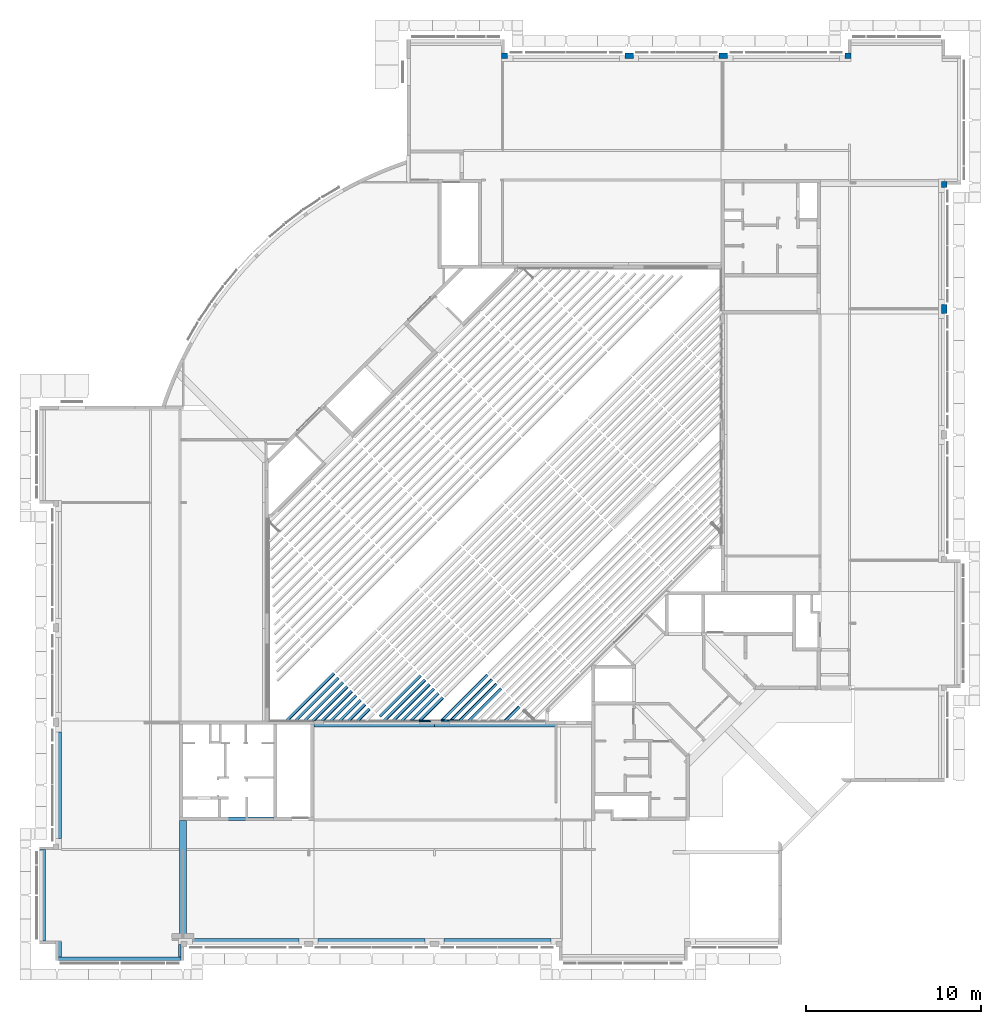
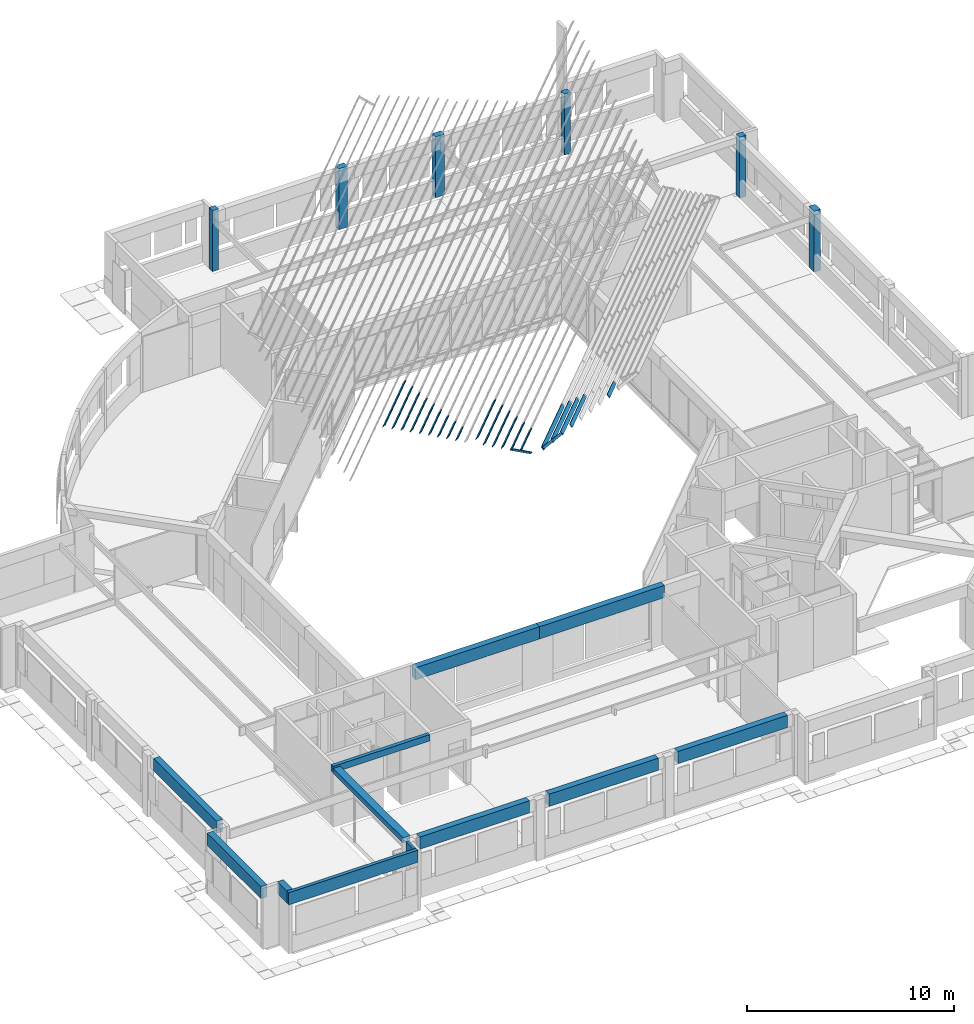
# One storey, part 2 of 37: 34 beams, 6 columns.
"""IFC4X3_ADD2 building model written with IfcOpenShell, lengths in millimetres."""

from ifc_helpers import new_model, si_unit, direction, frame, frame_2d, origin_with_axes, origin_2d_with_axis, place, context, subcontext, project, spatial, rectangle, extrude, source, transform, mapped, material, type_object, type_shapes, element, save


model = new_model("IFC4X3_ADD2")

# Units and contexts
model_context = context("Model", 3, precision=1e-05, world=origin_with_axes(), true_north=direction((0.0, 1.0)))
body_context = subcontext(model_context, "Body", "Model", "MODEL_VIEW")
ifc_project = project(units=[si_unit("LENGTHUNIT", "METRE", prefix="MILLI"), si_unit("AREAUNIT", "SQUARE_METRE"), si_unit("VOLUMEUNIT", "CUBIC_METRE"), si_unit("PLANEANGLEUNIT", "RADIAN"), si_unit("TIMEUNIT", "SECOND"), si_unit("MASSUNIT", "GRAM")], contexts=[model_context])

# Site, building, storey
site_placement = place(None, origin_with_axes())
site = spatial("IfcSite", under=ifc_project, at=site_placement, Name="Site", CompositionType="ELEMENT")
building_placement = place(site_placement, origin_with_axes())
building = spatial("IfcBuilding", under=site, at=building_placement, Name="IFC Building Story")
storey_placement = place(building_placement, frame((0.0, 0.0, 3600.0), z_axis=(0.0, 0.0, 1.0), x_axis=(1.0, 0.0, 0.0)))
storey = spatial("IfcBuildingStorey", under=building, at=storey_placement, Name="010", Elevation=3600.0)

# Columns
ifc_material_1 = material(Name="BB_Beton_Bestaand")
column_type_1 = type_object("IfcColumnType", Name="BB_XX_Kolom_ rechthoekig_ center-center_GTL_340 mm x 340 mm25", PredefinedType="NOTDEFINED")
shared_shape_1 = source(origin_with_axes(), body_context, "Body", "SweptSolid", [
    extrude(rectangle(XDim=340.0, YDim=340.000000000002, at=origin_2d_with_axis()), frame((0.0, 0.0, 3400.0), z_axis=(0.0, 0.0, 1.0), x_axis=(1.0, 0.0, 0.0)), (0.0, 0.0, 1.0), 3600.0),
])
type_shapes(column_type_1, [shared_shape_1])
for number, where, z_axis, x_axis in (
    (1, (75.0, 43405.0, -3600.0), (0.0, 0.0, 1.0), (1.0, 0.0, 0.0)),
    (2, (-5440.0, 50775.0, -3600.0), (0.0, 0.0, 1.0), (1.0, 0.0, 0.0)),
):
    element("IfcColumn", number, at=place(storey_placement, frame(where, z_axis=z_axis, x_axis=x_axis)), inside=storey, type_object=column_type_1, material=ifc_material_1, Name="BB_XX_Kolom, rechthoekig, center-center_GTL:340 mm x 340 mm", ObjectType="340 mm x 340 mm", PredefinedType="COLUMN", context=body_context, shape_type="MappedRepresentation", body=[
        mapped(shared_shape_1, transform((0.0, 0.0, 0.0))),
    ])
column_type_2 = type_object("IfcColumnType", Name="BB_XX_Kolom_ rechthoekig_ center-center_GTL_490 mm x 340 mm17", PredefinedType="NOTDEFINED")
shared_shape_2 = source(origin_with_axes(), body_context, "Body", "SweptSolid", [
    extrude(rectangle(XDim=490.0, YDim=340.0, at=origin_2d_with_axis()), frame((0.0, 0.0, 3400.0), z_axis=(0.0, 0.0, 1.0), x_axis=(1.0, 0.0, 0.0)), (0.0, 0.0, 1.0), 3600.0),
])
type_shapes(column_type_2, [shared_shape_2])
for number, where, z_axis, x_axis in (
    (3, (75.0, 36280.0, -3600.0), (0.0, 0.0, 1.0), (0.0, 1.0, 0.0)),
    (4, (-12565.0, 50775.0, -3600.0), (0.0, 0.0, 1.0), (1.0, 0.0, 0.0)),
    (5, (-17965.0, 50775.0, -3600.0), (0.0, 0.0, 1.0), (1.0, 0.0, 0.0)),
):
    element("IfcColumn", number, at=place(storey_placement, frame(where, z_axis=z_axis, x_axis=x_axis)), inside=storey, type_object=column_type_2, material=ifc_material_1, Name="BB_XX_Kolom, rechthoekig, center-center_GTL:490 mm x 340 mm", ObjectType="490 mm x 340 mm", PredefinedType="COLUMN", context=body_context, shape_type="MappedRepresentation", body=[
        mapped(shared_shape_2, transform((0.0, 0.0, 0.0))),
    ])
column_type_3 = type_object("IfcColumnType", Name="BB_XX_Kolom_ rechthoekig_ center-center_GTL_340 mm x 340 mm31", PredefinedType="NOTDEFINED")
shared_shape_3 = source(origin_with_axes(), body_context, "Body", "SweptSolid", [
    extrude(rectangle(XDim=340.0, YDim=340.0000000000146, at=origin_2d_with_axis()), frame((-25090.0, 50775.0, 3400.0), z_axis=(0.0, 0.0, 1.0), x_axis=(1.0, 0.0, 0.0)), (0.0, 0.0, 1.0), 3600.0),
])
type_shapes(column_type_3, [shared_shape_3])
column_placement = place(storey_placement, frame((0.0, 0.0, -3600.0), z_axis=(0.0, 0.0, 1.0), x_axis=(1.0, 0.0, 0.0)))
element("IfcColumn", 6, at=column_placement, inside=storey, type_object=column_type_3, material=ifc_material_1, Name="BB_XX_Kolom, rechthoekig, center-center_GTL:340 mm x 340 mm", ObjectType="340 mm x 340 mm", PredefinedType="COLUMN", context=body_context, shape_type="MappedRepresentation", body=[
    mapped(shared_shape_3, transform((0.0, 0.0, 0.0))),
])

# Beams
beam_type_1 = type_object("IfcBeamType", Name="BB_XX_Betonbalk_ rechthoekig_ center-center_SFB_340 x 720 mm55", PredefinedType="NOTDEFINED")
shared_shape_4 = source(origin_with_axes(), body_context, "Body", "SweptSolid", [
    extrude(rectangle(XDim=6900.00000000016, YDim=340.0, at=origin_2d_with_axis()), frame((-5.002220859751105e-12, 0.0, -360.0), z_axis=(0.0, 0.0, 1.0), x_axis=(1.0, 0.0, 0.0)), (0.0, 0.0, 1.0), 720.0),
])
type_shapes(beam_type_1, [shared_shape_4])
beam_1_placement = place(storey_placement, frame((-32550.0, 12525.004065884, 3040.0), z_axis=(0.0, 0.0, 1.0), x_axis=(1.0, 0.0, 0.0)))
element("IfcBeam", 7, at=beam_1_placement, inside=storey, type_object=beam_type_1, material=ifc_material_1, Name="BB_XX_Betonbalk, rechthoekig, center-center_SFB:340 x 720 mm", ObjectType="340 x 720 mm", PredefinedType="BEAM", context=body_context, shape_type="MappedRepresentation", body=[
    mapped(shared_shape_4, transform((0.0, 0.0, 0.0))),
])
beam_type_2 = type_object("IfcBeamType", Name="BB_XX_Betonbalk_ rechthoekig_ center-center_SFB_400 x 300 mm", PredefinedType="NOTDEFINED")
shared_shape_5 = source(origin_with_axes(), body_context, "Body", "SweptSolid", [
    extrude(rectangle(XDim=6755.00000000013, YDim=400.0, at=origin_2d_with_axis()), frame((5.002220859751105e-12, 0.0, -150.0), z_axis=(0.0, 0.0, 1.0), x_axis=(1.0, 0.0, 0.0)), (0.0, 0.0, 1.0), 300.0),
])
type_shapes(beam_type_2, [shared_shape_5])
beam_2_placement = place(storey_placement, frame((-43500.0, 3622.50000000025, 3250.0), z_axis=(0.0, 0.0, 1.0), x_axis=(0.0, 1.0, 0.0)))
element("IfcBeam", 8, at=beam_2_placement, inside=storey, type_object=beam_type_2, material=ifc_material_1, Name="BB_XX_Betonbalk, rechthoekig, center-center_SFB:400 x 300 mm", ObjectType="300 mm x 400 mm", PredefinedType="BEAM", context=body_context, shape_type="MappedRepresentation", body=[
    mapped(shared_shape_5, transform((0.0, 0.0, 0.0))),
])
beam_type_3 = type_object("IfcBeamType", Name="BB_XX_Betonbalk_ rechthoekig_ center-center_SFB_340 x 720 mm73", PredefinedType="NOTDEFINED")
shared_shape_6 = source(origin_with_axes(), body_context, "Body", "SweptSolid", [
    extrude(rectangle(XDim=6109.99999999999, YDim=340.0, at=origin_2d_with_axis()), frame((-5.002220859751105e-12, 0.0, -360.0), z_axis=(0.0, 0.0, 1.0), x_axis=(1.0, 0.0, 0.0)), (0.0, 0.0, 1.0), 720.0),
])
type_shapes(beam_type_3, [shared_shape_6])
for number, where, z_axis, x_axis in (
    (9, (-39900.0, 75.0, 3040.0), (0.0, 0.0, 1.0), (-1.0, 0.0, 0.0)),
    (10, (-32700.0, 75.0, 3040.0), (0.0, 0.0, 1.0), (-1.0, 0.0, 0.0)),
    (11, (-25500.0, 75.0, 3040.0), (0.0, 0.0, 1.0), (-1.0, 0.0, 0.0)),
):
    element("IfcBeam", number, at=place(storey_placement, frame(where, z_axis=z_axis, x_axis=x_axis)), inside=storey, type_object=beam_type_3, material=ifc_material_1, Name="BB_XX_Betonbalk, rechthoekig, center-center_SFB:340 x 720 mm", ObjectType="340 x 720 mm", PredefinedType="BEAM", context=body_context, shape_type="MappedRepresentation", body=[
        mapped(shared_shape_6, transform((0.0, 0.0, 0.0))),
    ])
beam_type_4 = type_object("IfcBeamType", Name="BB_XX_Betonbalk_ rechthoekig_ center-center_SFB_190 x 720 mm9", PredefinedType="NOTDEFINED")
shared_shape_7 = source(origin_with_axes(), body_context, "Body", "SweptSolid", [
    extrude(rectangle(XDim=7200.00000000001, YDim=190.0, at=origin_2d_with_axis()), frame((-5.002220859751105e-12, 0.0, -360.0), z_axis=(0.0, 0.0, 1.0), x_axis=(1.0, 0.0, 0.0)), (0.0, 0.0, 1.0), 720.0),
])
type_shapes(beam_type_4, [shared_shape_7])
beam_3_placement = place(storey_placement, frame((-47195.0, -900.0, 3040.0), z_axis=(0.0, 0.0, 1.0), x_axis=(-1.0, 0.0, 0.0)))
element("IfcBeam", 12, at=beam_3_placement, inside=storey, type_object=beam_type_4, material=ifc_material_1, Name="BB_XX_Betonbalk, rechthoekig, center-center_SFB:190 x 720 mm", ObjectType="190 x 720 mm", PredefinedType="BEAM", context=body_context, shape_type="MappedRepresentation", body=[
    mapped(shared_shape_7, transform((0.0, 0.0, 0.0))),
])
beam_type_5 = type_object("IfcBeamType", Name="BB_XX_Betonbalk_ rechthoekig_ center-center_SFB_340 x 720 mm99", PredefinedType="NOTDEFINED")
shared_shape_8 = source(origin_with_axes(), body_context, "Body", "SweptSolid", [
    extrude(rectangle(XDim=5209.99999999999, YDim=340.0, at=origin_2d_with_axis()), frame((-5.002220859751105e-12, 0.0, -360.0), z_axis=(0.0, 0.0, 1.0), x_axis=(1.0, 0.0, 0.0)), (0.0, 0.0, 1.0), 720.0),
])
type_shapes(beam_type_5, [shared_shape_8])
beam_4_placement = place(storey_placement, frame((-51525.0, 2730.0, 3040.0), z_axis=(0.0, 0.0, 1.0), x_axis=(0.0, 1.0, 0.0)))
element("IfcBeam", 13, at=beam_4_placement, inside=storey, type_object=beam_type_5, material=ifc_material_1, Name="BB_XX_Betonbalk, rechthoekig, center-center_SFB:340 x 720 mm", ObjectType="340 x 720 mm", PredefinedType="BEAM", context=body_context, shape_type="MappedRepresentation", body=[
    mapped(shared_shape_8, transform((0.0, 0.0, 0.0))),
])
beam_type_6 = type_object("IfcBeamType", Name="BB_XX_Betonbalk_ rechthoekig_ center-center_SFB_340 x 720 mm101", PredefinedType="NOTDEFINED")
shared_shape_9 = source(origin_with_axes(), body_context, "Body", "SweptSolid", [
    extrude(rectangle(XDim=6109.99999999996, YDim=340.0, at=origin_2d_with_axis()), frame((-5.002220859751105e-12, 0.0, -360.0), z_axis=(0.0, 0.0, 1.0), x_axis=(1.0, 0.0, 0.0)), (0.0, 0.0, 1.0), 720.0),
])
type_shapes(beam_type_6, [shared_shape_9])
beam_5_placement = place(storey_placement, frame((-50625.0, 9030.0, 3040.0), z_axis=(0.0, 0.0, 1.0), x_axis=(0.0, 1.0, 0.0)))
element("IfcBeam", 14, at=beam_5_placement, inside=storey, type_object=beam_type_6, material=ifc_material_1, Name="BB_XX_Betonbalk, rechthoekig, center-center_SFB:340 x 720 mm", ObjectType="340 x 720 mm", PredefinedType="BEAM", context=body_context, shape_type="MappedRepresentation", body=[
    mapped(shared_shape_9, transform((0.0, 0.0, 0.0))),
])
beam_type_7 = type_object("IfcBeamType", Name="BB_XX_Betonbalk_ rechthoekig_ center-center_SFB_340 x 720 mm139", PredefinedType="NOTDEFINED")
shared_shape_10 = source(origin_with_axes(), body_context, "Body", "SweptSolid", [
    extrude(rectangle(XDim=6979.9999999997, YDim=340.0, at=origin_2d_with_axis()), frame((-1.450644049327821e-10, 0.0, -360.0), z_axis=(0.0, 0.0, 1.0), x_axis=(1.0, 0.0, 0.0)), (0.0, 0.0, 1.0), 719.9999999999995),
])
type_shapes(beam_type_7, [shared_shape_10])
beam_6_placement = place(storey_placement, frame((-25610.0, 12525.0, 3040.0), z_axis=(0.0, 0.0, 1.0), x_axis=(1.0, 0.0, 0.0)))
element("IfcBeam", 15, at=beam_6_placement, inside=storey, type_object=beam_type_7, material=ifc_material_1, Name="BB_XX_Betonbalk, rechthoekig, center-center_SFB:340 x 720 mm", ObjectType="340 x 720 mm", PredefinedType="BEAM", context=body_context, shape_type="MappedRepresentation", body=[
    mapped(shared_shape_10, transform((0.0, 0.0, 0.0))),
])
beam_type_8 = type_object("IfcBeamType", Name="BB_XX_Betonbalk_ rechthoekig_ center-center_SFB_340 x 720 mm151", PredefinedType="NOTDEFINED")
shared_shape_11 = source(origin_with_axes(), body_context, "Body", "SweptSolid", [
    extrude(rectangle(XDim=900.000000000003, YDim=340.0, at=origin_2d_with_axis()), frame((-5.002220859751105e-12, 0.0, -360.0), z_axis=(0.0, 0.0, 1.0), x_axis=(1.0, 0.0, 0.0)), (0.0, 0.0, 1.0), 720.0),
])
type_shapes(beam_type_8, [shared_shape_11])
beam_7_placement = place(storey_placement, frame((-50625.0, -355.0, 3040.0), z_axis=(0.0, 0.0, 1.0), x_axis=(0.0, 1.0, 0.0)))
element("IfcBeam", 16, at=beam_7_placement, inside=storey, type_object=beam_type_8, material=ifc_material_1, Name="BB_XX_Betonbalk, rechthoekig, center-center_SFB:340 x 720 mm", ObjectType="340 x 720 mm", PredefinedType="BEAM", context=body_context, shape_type="MappedRepresentation", body=[
    mapped(shared_shape_11, transform((0.0, 0.0, 0.0))),
])
beam_type_9 = type_object("IfcBeamType", Name="BB_XX_Betonbalk_ rechthoekig_ center-center_SFB_150 x 720 mm5", PredefinedType="NOTDEFINED")
shared_shape_12 = source(origin_with_axes(), body_context, "Body", "SweptSolid", [
    extrude(rectangle(XDim=709.999999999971, YDim=150.0, at=frame_2d((0.0, 0.0), x_axis=(0.0, 1.0))), frame((-43670.0, -449.9999999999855, 6280.0), z_axis=(0.0, 0.0, 1.0), x_axis=(1.0, 0.0, 0.0)), (0.0, 0.0, 1.0), 719.9999999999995),
])
type_shapes(beam_type_9, [shared_shape_12])
beam_8_placement = place(storey_placement, frame((0.0, 0.0, -3600.0), z_axis=(0.0, 0.0, 1.0), x_axis=(1.0, 0.0, 0.0)))
element("IfcBeam", 17, at=beam_8_placement, inside=storey, type_object=beam_type_9, material=ifc_material_1, Name="BB_XX_Betonbalk, rechthoekig, center-center_SFB:150 x 720 mm", ObjectType="150 x 720 mm", PredefinedType="BEAM", context=body_context, shape_type="MappedRepresentation", body=[
    mapped(shared_shape_12, transform((0.0, 0.0, 0.0))),
])
beam_type_10 = type_object("IfcBeamType", Name="BB_XX_Betonbalk_ rechthoekig_ center-center_SFB_200 x 380 mm3", PredefinedType="NOTDEFINED")
shared_shape_13 = source(origin_with_axes(), body_context, "Body", "SweptSolid", [
    extrude(rectangle(XDim=5399.999999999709, YDim=200.0, at=origin_2d_with_axis()), frame((-40999.99999999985, 7100.000000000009, 6739.999999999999), z_axis=(0.0, 0.0, 1.0), x_axis=(1.0, 0.0, 0.0)), (0.0, 0.0, 1.0), 380.000000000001),
])
type_shapes(beam_type_10, [shared_shape_13])
beam_9_placement = place(storey_placement, frame((0.0, 0.0, -3600.0), z_axis=(0.0, 0.0, 1.0), x_axis=(1.0, 0.0, 0.0)))
element("IfcBeam", 18, at=beam_9_placement, inside=storey, type_object=beam_type_10, material=ifc_material_1, Name="BB_XX_Betonbalk, rechthoekig, center-center_SFB:200 x 380 mm", ObjectType="200 x 380 mm", PredefinedType="BEAM", context=body_context, shape_type="MappedRepresentation", body=[
    mapped(shared_shape_13, transform((0.0, 0.0, 0.0))),
])
ifc_material_2 = material(Name="GVH_i2_naaldhout_generiek")
beam_type_11 = type_object("IfcBeamType", Name="28_SF_hout_rechthoekig_40 x 230_547", PredefinedType="NOTDEFINED")
shared_shape_14 = source(origin_with_axes(), body_context, "Body", "SweptSolid", [
    extrude(rectangle(XDim=1889.65753476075, YDim=40.0000000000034, at=origin_2d_with_axis()), frame((-754.284908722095, 0.0, -115.0), z_axis=(0.0, 0.0, 1.0), x_axis=(1.0, 0.0, 0.0)), (0.0, 0.0, 1.0), 230.0),
])
type_shapes(beam_type_11, [shared_shape_14])
beam_10_placement = place(storey_placement, frame((-29812.3013945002, 12842.9972960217, 13865.1625326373), z_axis=(0.4307932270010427, -0.4307932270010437, 0.7929907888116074), x_axis=(-0.7071067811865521, -0.707106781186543, 0.0)))
element("IfcBeam", 19, at=beam_10_placement, inside=storey, type_object=beam_type_11, material=ifc_material_2, Name="28_SF_hout_rechthoekig:40 x 230", ObjectType="40 x 230", PredefinedType="BEAM", context=body_context, shape_type="MappedRepresentation", body=[
    mapped(shared_shape_14, transform((0.0, 0.0, 0.0))),
])
beam_type_12 = type_object("IfcBeamType", Name="28_SF_hout_rechthoekig_40 x 230_549", PredefinedType="NOTDEFINED")
shared_shape_15 = source(origin_with_axes(), body_context, "Body", "SweptSolid", [
    extrude(rectangle(XDim=2249.74539941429, YDim=40.0000000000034, at=origin_2d_with_axis()), frame((-574.2409253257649, 0.0, -115.0), z_axis=(0.0, 0.0, 1.0), x_axis=(1.0, 0.0, 0.0)), (0.0, 0.0, 1.0), 230.0),
])
type_shapes(beam_type_12, [shared_shape_15])
beam_11_placement = place(storey_placement, frame((-30066.311705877, 13097.0076073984, 14141.1453644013), z_axis=(0.4307932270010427, -0.4307932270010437, 0.7929907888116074), x_axis=(-0.7071067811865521, -0.707106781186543, 0.0)))
element("IfcBeam", 20, at=beam_11_placement, inside=storey, type_object=beam_type_12, material=ifc_material_2, Name="28_SF_hout_rechthoekig:40 x 230", ObjectType="40 x 230", PredefinedType="BEAM", context=body_context, shape_type="MappedRepresentation", body=[
    mapped(shared_shape_15, transform((0.0, 0.0, 0.0))),
])
beam_type_13 = type_object("IfcBeamType", Name="28_SF_hout_rechthoekig_40 x 230_551", PredefinedType="NOTDEFINED")
shared_shape_16 = source(origin_with_axes(), body_context, "Body", "SweptSolid", [
    extrude(rectangle(XDim=2608.97059456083, YDim=40.0000000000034, at=origin_2d_with_axis()), frame((-394.6282766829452, 0.0, -115.0), z_axis=(0.0, 0.0, 1.0), x_axis=(1.0, 0.0, 0.0)), (0.0, 0.0, 1.0), 230.0),
])
type_shapes(beam_type_13, [shared_shape_16])
beam_12_placement = place(storey_placement, frame((-30320.3220172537, 13351.0179187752, 14417.1281961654), z_axis=(0.4307932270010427, -0.4307932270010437, 0.7929907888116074), x_axis=(-0.7071067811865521, -0.707106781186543, 0.0)))
element("IfcBeam", 21, at=beam_12_placement, inside=storey, type_object=beam_type_13, material=ifc_material_2, Name="28_SF_hout_rechthoekig:40 x 230", ObjectType="40 x 230", PredefinedType="BEAM", context=body_context, shape_type="MappedRepresentation", body=[
    mapped(shared_shape_16, transform((0.0, 0.0, 0.0))),
])
beam_type_14 = type_object("IfcBeamType", Name="28_SF_hout_rechthoekig_40 x 230_553", PredefinedType="NOTDEFINED")
shared_shape_17 = source(origin_with_axes(), body_context, "Body", "SweptSolid", [
    extrude(rectangle(XDim=2968.19577210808, YDim=40.0000000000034, at=origin_2d_with_axis()), frame((-215.0156368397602, 0.0, -115.0), z_axis=(0.0, 0.0, 1.0), x_axis=(1.0, 0.0, 0.0)), (0.0, 0.0, 1.0), 230.0),
])
type_shapes(beam_type_14, [shared_shape_17])
beam_13_placement = place(storey_placement, frame((-30574.3323286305, 13605.0282301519, 14693.1110279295), z_axis=(0.4307932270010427, -0.4307932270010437, 0.7929907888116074), x_axis=(-0.7071067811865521, -0.707106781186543, 0.0)))
element("IfcBeam", 22, at=beam_13_placement, inside=storey, type_object=beam_type_14, material=ifc_material_2, Name="28_SF_hout_rechthoekig:40 x 230", ObjectType="40 x 230", PredefinedType="BEAM", context=body_context, shape_type="MappedRepresentation", body=[
    mapped(shared_shape_17, transform((0.0, 0.0, 0.0))),
])
beam_type_15 = type_object("IfcBeamType", Name="28_SF_hout_rechthoekig_40 x 230_555", PredefinedType="NOTDEFINED")
shared_shape_18 = source(origin_with_axes(), body_context, "Body", "SweptSolid", [
    extrude(rectangle(XDim=3309.16339912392, YDim=40.0000000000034, at=origin_2d_with_axis()), frame((-44.5317722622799, 0.0, -115.0), z_axis=(0.0, 0.0, 1.0), x_axis=(1.0, 0.0, 0.0)), (0.0, 0.0, 1.0), 230.0),
])
type_shapes(beam_type_15, [shared_shape_18])
beam_14_placement = place(storey_placement, frame((-30828.3426400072, 13859.0385415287, 14969.0938596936), z_axis=(0.4307932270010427, -0.4307932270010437, 0.7929907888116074), x_axis=(-0.7071067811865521, -0.707106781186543, 0.0)))
element("IfcBeam", 23, at=beam_14_placement, inside=storey, type_object=beam_type_15, material=ifc_material_2, Name="28_SF_hout_rechthoekig:40 x 230", ObjectType="40 x 230", PredefinedType="BEAM", context=body_context, shape_type="MappedRepresentation", body=[
    mapped(shared_shape_18, transform((0.0, 0.0, 0.0))),
])
beam_type_16 = type_object("IfcBeamType", Name="28_SF_hout_rechthoekig_40 x 230_557", PredefinedType="NOTDEFINED")
shared_shape_19 = source(origin_with_axes(), body_context, "Body", "SweptSolid", [
    extrude(rectangle(XDim=3319.1099999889, YDim=40.0000000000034, at=origin_2d_with_axis()), frame((-39.55842076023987, 0.0, -115.0), z_axis=(0.0, 0.0, 1.0), x_axis=(1.0, 0.0, 0.0)), (0.0, 0.0, 1.0), 230.0),
])
type_shapes(beam_type_16, [shared_shape_19])
beam_15_placement = place(storey_placement, frame((-31082.352951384, 14113.0488529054, 15245.0766914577), z_axis=(0.4307932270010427, -0.4307932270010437, 0.7929907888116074), x_axis=(-0.7071067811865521, -0.707106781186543, 0.0)))
element("IfcBeam", 24, at=beam_15_placement, inside=storey, type_object=beam_type_16, material=ifc_material_2, Name="28_SF_hout_rechthoekig:40 x 230", ObjectType="40 x 230", PredefinedType="BEAM", context=body_context, shape_type="MappedRepresentation", body=[
    mapped(shared_shape_19, transform((0.0, 0.0, 0.0))),
])
beam_type_17 = type_object("IfcBeamType", Name="28_SF_hout_rechthoekig_40 x 230_581", PredefinedType="NOTDEFINED")
shared_shape_20 = source(origin_with_axes(), body_context, "Body", "SweptSolid", [
    extrude(rectangle(XDim=985.986552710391, YDim=40.0000000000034, at=origin_2d_with_axis()), frame((-1206.119939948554, 0.0, -115.0), z_axis=(0.0, 0.0, 1.0), x_axis=(1.0, 0.0, 0.0)), (0.0, 0.0, 1.0), 230.0),
])
type_shapes(beam_type_17, [shared_shape_20])
beam_16_placement = place(storey_placement, frame((-34008.0493684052, 12203.3936813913, 15797.0423549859), z_axis=(0.4307932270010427, -0.4307932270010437, 0.7929907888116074), x_axis=(-0.7071067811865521, -0.707106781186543, 0.0)))
element("IfcBeam", 25, at=beam_16_placement, inside=storey, type_object=beam_type_17, material=ifc_material_2, Name="28_SF_hout_rechthoekig:40 x 230", ObjectType="40 x 230", PredefinedType="BEAM", context=body_context, shape_type="MappedRepresentation", body=[
    mapped(shared_shape_20, transform((0.0, 0.0, 0.0))),
])
beam_type_18 = type_object("IfcBeamType", Name="28_SF_hout_rechthoekig_40 x 230_583", PredefinedType="NOTDEFINED")
shared_shape_21 = source(origin_with_axes(), body_context, "Body", "SweptSolid", [
    extrude(rectangle(XDim=1345.21174785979, YDim=40.0000000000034, at=origin_2d_with_axis()), frame((-1026.507291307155, 0.0, -115.0), z_axis=(0.0, 0.0, 1.0), x_axis=(1.0, 0.0, 0.0)), (0.0, 0.0, 1.0), 229.9999999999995),
])
type_shapes(beam_type_18, [shared_shape_21])
beam_17_placement = place(storey_placement, frame((-34262.0596797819, 12457.4039927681, 16073.0251867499), z_axis=(0.4307932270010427, -0.4307932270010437, 0.7929907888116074), x_axis=(-0.7071067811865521, -0.707106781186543, 0.0)))
element("IfcBeam", 26, at=beam_17_placement, inside=storey, type_object=beam_type_18, material=ifc_material_2, Name="28_SF_hout_rechthoekig:40 x 230", ObjectType="40 x 230", PredefinedType="BEAM", context=body_context, shape_type="MappedRepresentation", body=[
    mapped(shared_shape_21, transform((0.0, 0.0, 0.0))),
])
beam_type_19 = type_object("IfcBeamType", Name="28_SF_hout_rechthoekig_40 x 230_585", PredefinedType="NOTDEFINED")
shared_shape_22 = source(origin_with_axes(), body_context, "Body", "SweptSolid", [
    extrude(rectangle(XDim=1704.4369606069, YDim=40.0000000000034, at=origin_2d_with_axis()), frame((-846.8946338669, 0.0, -115.0), z_axis=(0.0, 0.0, 1.0), x_axis=(1.0, 0.0, 0.0)), (0.0, 0.0, 1.0), 229.9999999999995),
])
type_shapes(beam_type_19, [shared_shape_22])
beam_18_placement = place(storey_placement, frame((-34516.0699911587, 12711.4143041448, 16349.008018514), z_axis=(0.4307932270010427, -0.4307932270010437, 0.7929907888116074), x_axis=(-0.7071067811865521, -0.707106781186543, 0.0)))
element("IfcBeam", 27, at=beam_18_placement, inside=storey, type_object=beam_type_19, material=ifc_material_2, Name="28_SF_hout_rechthoekig:40 x 230", ObjectType="40 x 230", PredefinedType="BEAM", context=body_context, shape_type="MappedRepresentation", body=[
    mapped(shared_shape_22, transform((0.0, 0.0, 0.0))),
])
beam_type_20 = type_object("IfcBeamType", Name="28_SF_hout_rechthoekig_40 x 230_587", PredefinedType="NOTDEFINED")
shared_shape_23 = source(origin_with_axes(), body_context, "Body", "SweptSolid", [
    extrude(rectangle(XDim=2063.66214656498, YDim=40.0000000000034, at=origin_2d_with_axis()), frame((-667.2819898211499, 0.0, -115.0), z_axis=(0.0, 0.0, 1.0), x_axis=(1.0, 0.0, 0.0)), (0.0, 0.0, 1.0), 229.9999999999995),
])
type_shapes(beam_type_20, [shared_shape_23])
beam_19_placement = place(storey_placement, frame((-34770.0803025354, 12965.4246155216, 16624.9908502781), z_axis=(0.4307932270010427, -0.4307932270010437, 0.7929907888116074), x_axis=(-0.7071067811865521, -0.707106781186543, 0.0)))
element("IfcBeam", 28, at=beam_19_placement, inside=storey, type_object=beam_type_20, material=ifc_material_2, Name="28_SF_hout_rechthoekig:40 x 230", ObjectType="40 x 230", PredefinedType="BEAM", context=body_context, shape_type="MappedRepresentation", body=[
    mapped(shared_shape_23, transform((0.0, 0.0, 0.0))),
])
beam_type_21 = type_object("IfcBeamType", Name="28_SF_hout_rechthoekig_40 x 230_589", PredefinedType="NOTDEFINED")
shared_shape_24 = source(origin_with_axes(), body_context, "Body", "SweptSolid", [
    extrude(rectangle(XDim=2422.88733331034, YDim=40.0000000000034, at=origin_2d_with_axis()), frame((-487.66934538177, 0.0, -115.0), z_axis=(0.0, 0.0, 1.0), x_axis=(1.0, 0.0, 0.0)), (0.0, 0.0, 1.0), 229.9999999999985),
])
type_shapes(beam_type_21, [shared_shape_24])
beam_20_placement = place(storey_placement, frame((-35024.0906139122, 13219.4349268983, 16900.9736820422), z_axis=(0.4307932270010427, -0.4307932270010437, 0.7929907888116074), x_axis=(-0.7071067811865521, -0.707106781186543, 0.0)))
element("IfcBeam", 29, at=beam_20_placement, inside=storey, type_object=beam_type_21, material=ifc_material_2, Name="28_SF_hout_rechthoekig:40 x 230", ObjectType="40 x 230", PredefinedType="BEAM", context=body_context, shape_type="MappedRepresentation", body=[
    mapped(shared_shape_24, transform((0.0, 0.0, 0.0))),
])
beam_type_22 = type_object("IfcBeamType", Name="28_SF_hout_rechthoekig_40 x 230_591", PredefinedType="NOTDEFINED")
shared_shape_25 = source(origin_with_axes(), body_context, "Body", "SweptSolid", [
    extrude(rectangle(XDim=2782.11252845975, YDim=40.0000000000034, at=origin_2d_with_axis()), frame((-308.0566967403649, 0.0, -115.0), z_axis=(0.0, 0.0, 1.0), x_axis=(1.0, 0.0, 0.0)), (0.0, 0.0, 1.0), 229.999999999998),
])
type_shapes(beam_type_22, [shared_shape_25])
beam_21_placement = place(storey_placement, frame((-35278.1009252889, 13473.4452382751, 17176.9565138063), z_axis=(0.4307932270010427, -0.4307932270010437, 0.7929907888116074), x_axis=(-0.7071067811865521, -0.707106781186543, 0.0)))
element("IfcBeam", 30, at=beam_21_placement, inside=storey, type_object=beam_type_22, material=ifc_material_2, Name="28_SF_hout_rechthoekig:40 x 230", ObjectType="40 x 230", PredefinedType="BEAM", context=body_context, shape_type="MappedRepresentation", body=[
    mapped(shared_shape_25, transform((0.0, 0.0, 0.0))),
])
beam_type_23 = type_object("IfcBeamType", Name="28_SF_hout_rechthoekig_40 x 230_593", PredefinedType="NOTDEFINED")
shared_shape_26 = source(origin_with_axes(), body_context, "Body", "SweptSolid", [
    extrude(rectangle(XDim=3141.33772360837, YDim=40.0000000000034, at=origin_2d_with_axis()), frame((-128.4440480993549, 0.0, -115.0), z_axis=(0.0, 0.0, 1.0), x_axis=(1.0, 0.0, 0.0)), (0.0, 0.0, 1.0), 229.999999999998),
])
type_shapes(beam_type_23, [shared_shape_26])
beam_22_placement = place(storey_placement, frame((-35532.1112366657, 13727.4555496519, 17452.9393455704), z_axis=(0.4307932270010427, -0.4307932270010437, 0.7929907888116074), x_axis=(-0.7071067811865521, -0.707106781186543, 0.0)))
element("IfcBeam", 31, at=beam_22_placement, inside=storey, type_object=beam_type_23, material=ifc_material_2, Name="28_SF_hout_rechthoekig:40 x 230", ObjectType="40 x 230", PredefinedType="BEAM", context=body_context, shape_type="MappedRepresentation", body=[
    mapped(shared_shape_26, transform((0.0, 0.0, 0.0))),
])
beam_type_24 = type_object("IfcBeamType", Name="28_SF_hout_rechthoekig_40 x 230_595", PredefinedType="NOTDEFINED")
shared_shape_27 = source(origin_with_axes(), body_context, "Body", "SweptSolid", [
    extrude(rectangle(XDim=3500.56293635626, YDim=40.0000000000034, at=origin_2d_with_axis()), frame((51.16860934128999, 0.0, -115.0), z_axis=(0.0, 0.0, 1.0), x_axis=(1.0, 0.0, 0.0)), (0.0, 0.0, 1.0), 229.999999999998),
])
type_shapes(beam_type_24, [shared_shape_27])
beam_23_placement = place(storey_placement, frame((-35786.1215480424, 13981.4658610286, 17728.9221773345), z_axis=(0.4307932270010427, -0.4307932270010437, 0.7929907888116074), x_axis=(-0.7071067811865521, -0.707106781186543, 0.0)))
element("IfcBeam", 32, at=beam_23_placement, inside=storey, type_object=beam_type_24, material=ifc_material_2, Name="28_SF_hout_rechthoekig:40 x 230", ObjectType="40 x 230", PredefinedType="BEAM", context=body_context, shape_type="MappedRepresentation", body=[
    mapped(shared_shape_27, transform((0.0, 0.0, 0.0))),
])
beam_type_25 = type_object("IfcBeamType", Name="28_SF_hout_rechthoekig_40 x 230_597", PredefinedType="NOTDEFINED")
shared_shape_28 = source(origin_with_axes(), body_context, "Body", "SweptSolid", [
    extrude(rectangle(XDim=3859.78811391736, YDim=40.0000000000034, at=origin_2d_with_axis()), frame((230.78124918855, 0.0, -115.0), z_axis=(0.0, 0.0, 1.0), x_axis=(1.0, 0.0, 0.0)), (0.0, 0.0, 1.0), 229.9999999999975),
])
type_shapes(beam_type_25, [shared_shape_28])
beam_24_placement = place(storey_placement, frame((-36040.1318594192, 14235.4761724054, 18004.9050090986), z_axis=(0.4307932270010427, -0.4307932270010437, 0.7929907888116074), x_axis=(-0.7071067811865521, -0.707106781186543, 0.0)))
element("IfcBeam", 33, at=beam_24_placement, inside=storey, type_object=beam_type_25, material=ifc_material_2, Name="28_SF_hout_rechthoekig:40 x 230", ObjectType="40 x 230", PredefinedType="BEAM", context=body_context, shape_type="MappedRepresentation", body=[
    mapped(shared_shape_28, transform((0.0, 0.0, 0.0))),
])
beam_type_26 = type_object("IfcBeamType", Name="28_SF_hout_rechthoekig_40 x 230_687", PredefinedType="NOTDEFINED")
shared_shape_29 = source(origin_with_axes(), body_context, "Body", "SweptSolid", [
    extrude(rectangle(XDim=3771.05486749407, YDim=40.0000000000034, at=origin_2d_with_axis()), frame((75.05906408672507, 0.0, -115.0), z_axis=(0.0, 0.0, 1.0), x_axis=(1.0, 0.0, 0.0)), (0.0, 0.0, 1.0), 230.0),
])
type_shapes(beam_type_26, [shared_shape_29])
beam_25_placement = place(storey_placement, frame((-27455.1175845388, 13962.2900523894, 13583.9665129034), z_axis=(-0.4034072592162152, 0.4034072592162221, 0.8212948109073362), x_axis=(0.7071067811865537, 0.7071067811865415, 0.0)))
element("IfcBeam", 34, at=beam_25_placement, inside=storey, type_object=beam_type_26, material=ifc_material_2, Name="28_SF_hout_rechthoekig:40 x 230", ObjectType="40 x 230", PredefinedType="BEAM", context=body_context, shape_type="MappedRepresentation", body=[
    mapped(shared_shape_29, transform((0.0, 0.0, 0.0))),
])
beam_type_27 = type_object("IfcBeamType", Name="28_SF_hout_rechthoekig_40 x 230_689", PredefinedType="NOTDEFINED")
shared_shape_30 = source(origin_with_axes(), body_context, "Body", "SweptSolid", [
    extrude(rectangle(XDim=3364.93735051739, YDim=40.0000000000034, at=origin_2d_with_axis()), frame((266.0272446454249, 0.0, -115.0), z_axis=(0.0, 0.0, 1.0), x_axis=(1.0, 0.0, 0.0)), (0.0, 0.0, 1.0), 230.0),
])
type_shapes(beam_type_27, [shared_shape_30])
beam_26_placement = place(storey_placement, frame((-27185.8149922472, 13710.0853139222, 13840.1228165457), z_axis=(-0.4034072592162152, 0.4034072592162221, 0.8212948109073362), x_axis=(0.7071067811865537, 0.7071067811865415, 0.0)))
element("IfcBeam", 35, at=beam_26_placement, inside=storey, type_object=beam_type_27, material=ifc_material_2, Name="28_SF_hout_rechthoekig:40 x 230", ObjectType="40 x 230", PredefinedType="BEAM", context=body_context, shape_type="MappedRepresentation", body=[
    mapped(shared_shape_30, transform((0.0, 0.0, 0.0))),
])
beam_type_28 = type_object("IfcBeamType", Name="28_SF_hout_rechthoekig_40 x 230_691", PredefinedType="NOTDEFINED")
shared_shape_31 = source(origin_with_axes(), body_context, "Body", "SweptSolid", [
    extrude(rectangle(XDim=2984.40126527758, YDim=40.0000000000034, at=origin_2d_with_axis()), frame((456.29471771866, 0.0, -115.0), z_axis=(0.0, 0.0, 1.0), x_axis=(1.0, 0.0, 0.0)), (0.0, 0.0, 1.0), 230.0),
])
type_shapes(beam_type_28, [shared_shape_31])
beam_27_placement = place(storey_placement, frame((-26925.0613268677, 13449.3316485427, 14096.279120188), z_axis=(-0.4034072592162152, 0.4034072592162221, 0.8212948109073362), x_axis=(0.7071067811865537, 0.7071067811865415, 0.0)))
element("IfcBeam", 36, at=beam_27_placement, inside=storey, type_object=beam_type_28, material=ifc_material_2, Name="28_SF_hout_rechthoekig:40 x 230", ObjectType="40 x 230", PredefinedType="BEAM", context=body_context, shape_type="MappedRepresentation", body=[
    mapped(shared_shape_31, transform((0.0, 0.0, 0.0))),
])
beam_type_29 = type_object("IfcBeamType", Name="28_SF_hout_rechthoekig_40 x 230_693", PredefinedType="NOTDEFINED")
shared_shape_32 = source(origin_with_axes(), body_context, "Body", "SweptSolid", [
    extrude(rectangle(XDim=2615.661247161, YDim=40.0000000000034, at=origin_2d_with_axis()), frame((640.6641572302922, 0.0, -115.0), z_axis=(0.0, 0.0, 1.0), x_axis=(1.0, 0.0, 0.0)), (0.0, 0.0, 1.0), 230.0),
])
type_shapes(beam_type_29, [shared_shape_32])
beam_28_placement = place(storey_placement, frame((-26664.3076614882, 13188.5779831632, 14352.4354238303), z_axis=(-0.4034072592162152, 0.4034072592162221, 0.8212948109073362), x_axis=(0.7071067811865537, 0.7071067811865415, 0.0)))
element("IfcBeam", 37, at=beam_28_placement, inside=storey, type_object=beam_type_29, material=ifc_material_2, Name="28_SF_hout_rechthoekig:40 x 230", ObjectType="40 x 230", PredefinedType="BEAM", context=body_context, shape_type="MappedRepresentation", body=[
    mapped(shared_shape_32, transform((0.0, 0.0, 0.0))),
])
beam_type_30 = type_object("IfcBeamType", Name="28_SF_hout_rechthoekig_40 x 230_701", PredefinedType="NOTDEFINED")
shared_shape_33 = source(origin_with_axes(), body_context, "Body", "SweptSolid", [
    extrude(rectangle(XDim=1140.62714424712, YDim=40.0000000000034, at=origin_2d_with_axis()), frame((1378.178930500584, 0.0, -115.0), z_axis=(0.0, 0.0, 1.0), x_axis=(1.0, 0.0, 0.0)), (0.0, 0.0, 1.0), 230.0),
])
type_shapes(beam_type_30, [shared_shape_33])
beam_29_placement = place(storey_placement, frame((-25621.2929999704, 12145.5633216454, 15377.0606383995), z_axis=(-0.4034072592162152, 0.4034072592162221, 0.8212948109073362), x_axis=(0.7071067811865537, 0.7071067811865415, 0.0)))
element("IfcBeam", 38, at=beam_29_placement, inside=storey, type_object=beam_type_30, material=ifc_material_2, Name="28_SF_hout_rechthoekig:40 x 230", ObjectType="40 x 230", PredefinedType="BEAM", context=body_context, shape_type="MappedRepresentation", body=[
    mapped(shared_shape_33, transform((0.0, 0.0, 0.0))),
])
beam_type_31 = type_object("IfcBeamType", Name="28_SF_hout_rechthoekig_40 x 150_1", PredefinedType="NOTDEFINED")
shared_shape_34 = source(origin_with_axes(), body_context, "Body", "SweptSolid", [
    extrude(rectangle(XDim=1144.57117758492, YDim=40.0000000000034, at=origin_2d_with_axis()), frame((1341.6991254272, 0.0, -75.0), z_axis=(0.0, 0.0, 1.0), x_axis=(1.0, 0.0, 0.0)), (0.0, 0.0, 1.0), 150.0),
])
type_shapes(beam_type_31, [shared_shape_34])
beam_30_placement = place(storey_placement, frame((-29393.1097092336, 12726.3060226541, 13233.0630885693), z_axis=(-0.4034072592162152, 0.4034072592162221, 0.8212948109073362), x_axis=(0.8963188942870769, -0.006325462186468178, 0.4433648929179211)))
element("IfcBeam", 39, at=beam_30_placement, inside=storey, type_object=beam_type_31, material=ifc_material_2, Name="28_SF_hout_rechthoekig:40 x 150", ObjectType="40 x 150", PredefinedType="BEAM", context=body_context, shape_type="MappedRepresentation", body=[
    mapped(shared_shape_34, transform((0.0, 0.0, 0.0))),
])
beam_type_32 = type_object("IfcBeamType", Name="28_SF_hout_rechthoekig_40 x 150_7", PredefinedType="NOTDEFINED")
shared_shape_35 = source(origin_with_axes(), body_context, "Body", "SweptSolid", [
    extrude(rectangle(XDim=1225.49001615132, YDim=40.0000000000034, at=origin_2d_with_axis()), frame((-246.0641536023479, 0.0, -75.0), z_axis=(0.0, 0.0, 1.0), x_axis=(1.0, 0.0, 0.0)), (0.0, 0.0, 1.0), 149.9999999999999),
])
type_shapes(beam_type_32, [shared_shape_35])
beam_31_placement = place(storey_placement, frame((-30098.7123071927, 12709.1133604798, 13941.7177581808), z_axis=(0.4307932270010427, -0.4307932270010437, 0.7929907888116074), x_axis=(-0.8793901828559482, -0.003014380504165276, 0.4760922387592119)))
element("IfcBeam", 40, at=beam_31_placement, inside=storey, type_object=beam_type_32, material=ifc_material_2, Name="28_SF_hout_rechthoekig:40 x 150", ObjectType="40 x 150", PredefinedType="BEAM", context=body_context, shape_type="MappedRepresentation", body=[
    mapped(shared_shape_35, transform((0.0, 0.0, 0.0))),
])

save(model, "model.ifc")
